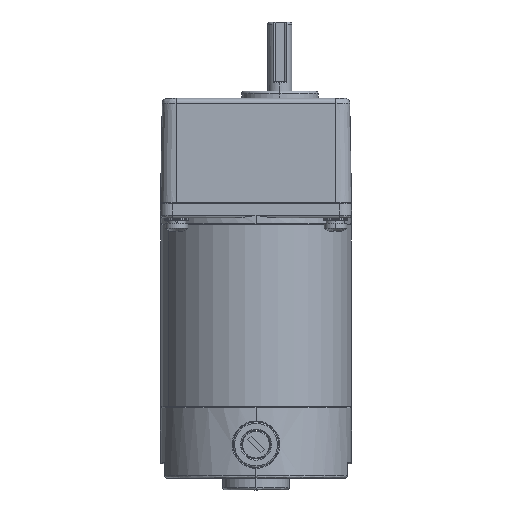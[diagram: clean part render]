
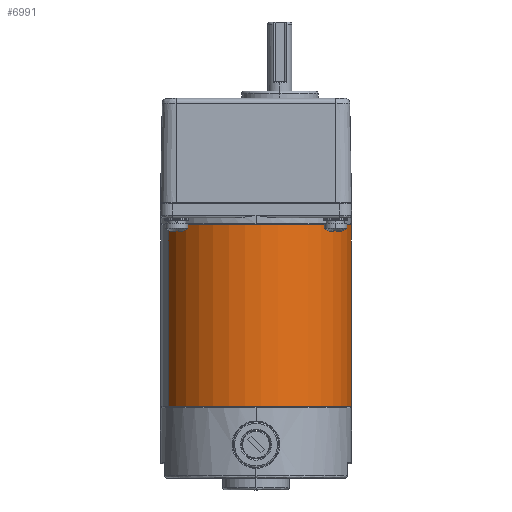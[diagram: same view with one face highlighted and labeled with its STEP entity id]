
A CAD part, left-side view. The second image highlights one B-rep face of the part: STEP entity #6991.
In plain terms, the highlighted cylindrical face has radius 40 mm (diameter 80 mm), a partial arc.
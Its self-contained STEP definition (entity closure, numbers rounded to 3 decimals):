
#1167 = ORIENTED_EDGE ( 'NONE', *, *, #9661, .T. ) ;
#1742 = VECTOR ( 'NONE', #3373, 1000. ) ;
#1892 = CARTESIAN_POINT ( 'NONE',  ( 47.192, 0., -43.62 ) ) ;
#1962 = ORIENTED_EDGE ( 'NONE', *, *, #11760, .T. ) ;
#2281 = CARTESIAN_POINT ( 'NONE',  ( 47.192, 0., 36.38 ) ) ;
#2513 = DIRECTION ( 'NONE',  ( 0., -1., 0. ) ) ;
#2772 = EDGE_CURVE ( 'NONE', #8794, #13467, #10654, .T. ) ;
#2782 = CARTESIAN_POINT ( 'NONE',  ( 47.192, 76., 36.38 ) ) ;
#3359 = CARTESIAN_POINT ( 'NONE',  ( 47.192, 99., -43.62 ) ) ;
#3373 = DIRECTION ( 'NONE',  ( 0., -1., 0. ) ) ;
#4023 = CARTESIAN_POINT ( 'NONE',  ( 47.192, 76., -43.62 ) ) ;
#5532 = CARTESIAN_POINT ( 'NONE',  ( 47.192, 0., -3.62 ) ) ;
#5792 = CARTESIAN_POINT ( 'NONE',  ( 47.192, 99., -3.62 ) ) ;
#6991 = ADVANCED_FACE ( 'NONE', ( #15681 ), #14267, .T. ) ;
#8140 = DIRECTION ( 'NONE',  ( 0., 0., 1. ) ) ;
#8794 = VERTEX_POINT ( 'NONE', #2782 ) ;
#9286 = VERTEX_POINT ( 'NONE', #4023 ) ;
#9539 = AXIS2_PLACEMENT_3D ( 'NONE', #5532, #11474, #17223 ) ;
#9613 = DIRECTION ( 'NONE',  ( 0., -1., 0. ) ) ;
#9661 = EDGE_CURVE ( 'NONE', #10013, #13467, #11984, .T. ) ;
#9866 = CARTESIAN_POINT ( 'NONE',  ( 47.192, 76., -3.62 ) ) ;
#10013 = VERTEX_POINT ( 'NONE', #1892 ) ;
#10654 = LINE ( 'NONE', #16409, #1742 ) ;
#10909 = DIRECTION ( 'NONE',  ( 0., -1., 0. ) ) ;
#11158 = ORIENTED_EDGE ( 'NONE', *, *, #2772, .F. ) ;
#11474 = DIRECTION ( 'NONE',  ( 0., 1., 0. ) ) ;
#11760 = EDGE_CURVE ( 'NONE', #9286, #10013, #16391, .T. ) ;
#11984 = CIRCLE ( 'NONE', #9539, 40. ) ;
#12738 = AXIS2_PLACEMENT_3D ( 'NONE', #5792, #9613, #18026 ) ;
#12881 = ORIENTED_EDGE ( 'NONE', *, *, #14345, .T. ) ;
#13467 = VERTEX_POINT ( 'NONE', #2281 ) ;
#13532 = AXIS2_PLACEMENT_3D ( 'NONE', #9866, #2513, #8140 ) ;
#14267 = CYLINDRICAL_SURFACE ( 'NONE', #12738, 40. ) ;
#14345 = EDGE_CURVE ( 'NONE', #8794, #9286, #17757, .T. ) ;
#15681 = FACE_OUTER_BOUND ( 'NONE', #16804, .T. ) ;
#16391 = LINE ( 'NONE', #3359, #16607 ) ;
#16409 = CARTESIAN_POINT ( 'NONE',  ( 47.192, 99., 36.38 ) ) ;
#16607 = VECTOR ( 'NONE', #10909, 1000. ) ;
#16804 = EDGE_LOOP ( 'NONE', ( #11158, #12881, #1962, #1167 ) ) ;
#17223 = DIRECTION ( 'NONE',  ( 0., 0., -1. ) ) ;
#17757 = CIRCLE ( 'NONE', #13532, 40. ) ;
#18026 = DIRECTION ( 'NONE',  ( 0., 0., -1. ) ) ;
